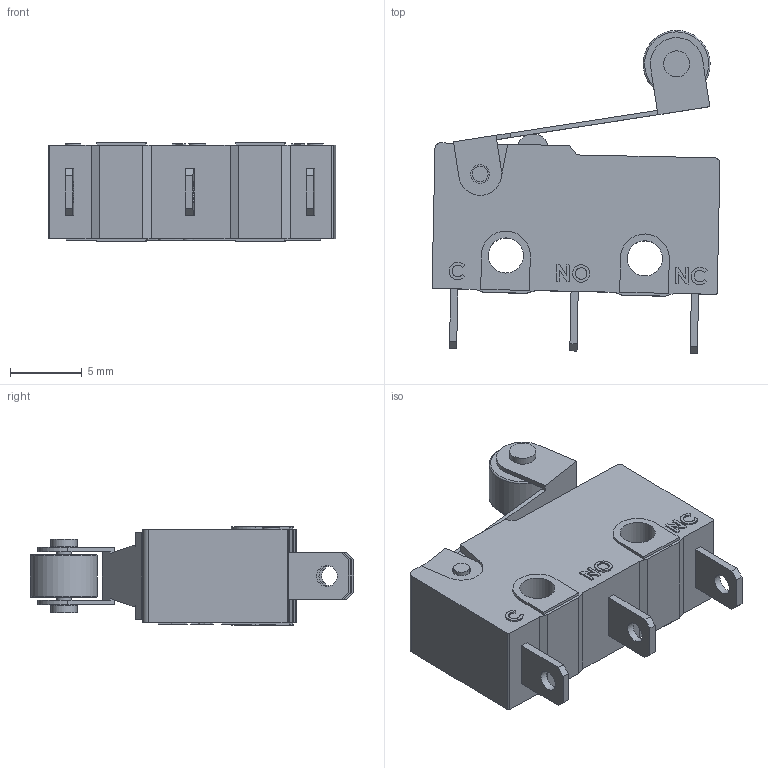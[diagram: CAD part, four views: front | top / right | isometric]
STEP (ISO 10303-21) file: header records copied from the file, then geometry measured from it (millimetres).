
FILE_DESCRIPTION(/* description */ (''),/* implementation_level */ '2;1');
FILE_NAME(/* name */ 'C:/Users/User/Desktop/Limit Switch v2.step',/* time_stamp */ '2020-09-21T13:38:44+08:00',/* author */ (''),/* organization */ (''),/* preprocessor_version */ 'ST-DEVELOPER v18.1',/* originating_system */ 'Autodesk Translation Framework v9.3.0.1241',/* authorisation */ '');
FILE_SCHEMA (('AUTOMOTIVE_DESIGN { 1 0 10303 214 3 1 1 }'));
Length unit declared in the file: millimetre
Products named in the file (7): Limit Switch; Body; Switch_Button; Link; Wheel shaft; Wheel; ball
Assembly tree (6 placements, depth 2):
  Limit Switch
    Body
    Switch_Button
    Link
    Wheel shaft
    Wheel
    ball
Bounding box: 20.06 x 22.52 x 6.9 mm (x, y, z)
Volume: 1336 mm3; surface area: 1464.6 mm2
Topology: 5 solids, 5 shells, 429 faces, 1134 edges, 756 vertices
Faces by surface type: plane 292, bspline 101, cylinder 34, torus 2
Full cylindrical faces by diameter (mm): 1 x1, 1.1 x2, 1.2 x1, 1.3 x2, 1.45 x3, 1.5 x2, 1.82 x2, 2.45 x2, 4.67 x1
Entity records: 19448 total; most frequent: CARTESIAN_POINT 9137, ORIENTED_EDGE 2268, DIRECTION 1688, EDGE_CURVE 1134, LINE 858, VECTOR 858, VERTEX_POINT 756, EDGE_LOOP 490
